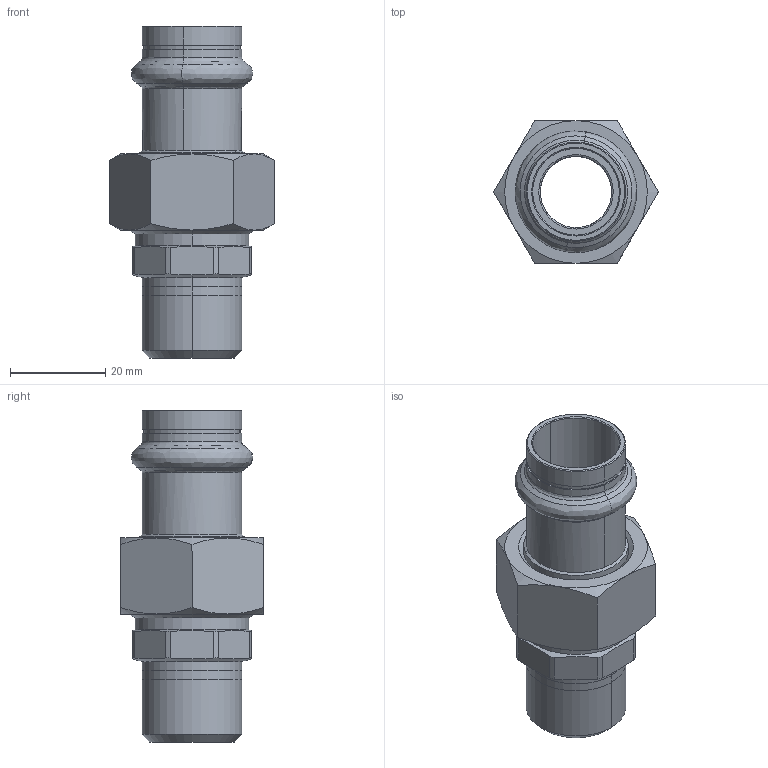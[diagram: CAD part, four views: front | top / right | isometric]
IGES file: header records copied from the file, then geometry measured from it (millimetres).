
Start section: Elysium IGES Interface
Global section: file name: C:\3d modellen sudo\C-Pr VP\SP8331GV\8331GVW1812.igs; native system: CoCreate Modeling 17.00A  17-Jun-2010; preprocessor: CoCreate IGES_3D V2.2; author: Unknown; organization: Unknown; date: 20130305.124343; units: millimetre
Bounding box: 34.64 x 30 x 69.8 mm (x, y, z)
Volume: 18111.1 mm3; surface area: 12963 mm2
Topology: 3 solids, 3 shells, 124 faces, 288 edges, 174 vertices
Faces by surface type: bspline 124
